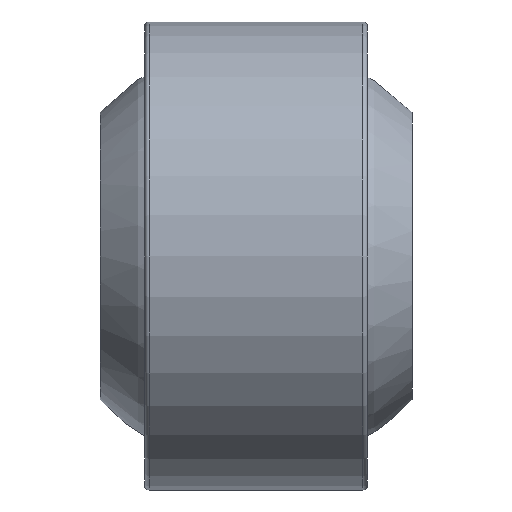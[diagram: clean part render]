
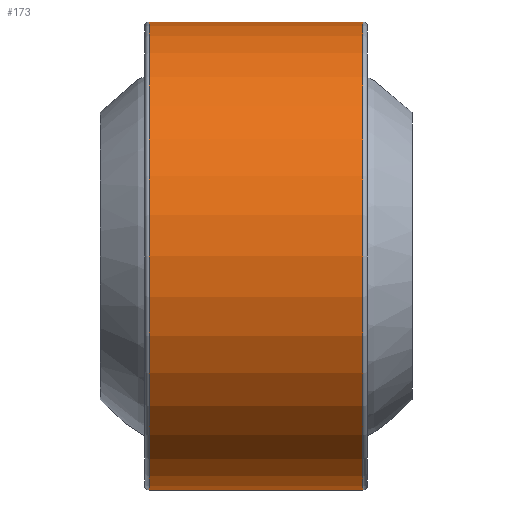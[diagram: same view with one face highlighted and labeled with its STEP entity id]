
A CAD part, front view. The second image highlights one B-rep face of the part: STEP entity #173.
In plain terms, the highlighted cylindrical face has radius 21 mm (diameter 42 mm), a full revolution.
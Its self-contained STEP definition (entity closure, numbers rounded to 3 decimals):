
#173 = ADVANCED_FACE( '', ( #195, #196, #197 ), #198, .T. );
#195 = FACE_OUTER_BOUND( '', #231, .T. );
#196 = FACE_BOUND( '', #232, .T. );
#197 = FACE_OUTER_BOUND( '', #233, .T. );
#198 = CYLINDRICAL_SURFACE( '', #234, 21. );
#231 = EDGE_LOOP( '', ( #274 ) );
#232 = EDGE_LOOP( '', ( #275 ) );
#233 = EDGE_LOOP( '', ( #276 ) );
#234 = AXIS2_PLACEMENT_3D( '', #277, #278, #279 );
#274 = ORIENTED_EDGE( '', *, *, #316, .T. );
#275 = ORIENTED_EDGE( '', *, *, #317, .T. );
#276 = ORIENTED_EDGE( '', *, *, #314, .F. );
#277 = CARTESIAN_POINT( '', ( 10., 0., 0. ) );
#278 = DIRECTION( '', ( -1., 0., 0. ) );
#279 = DIRECTION( '', ( 0., 0., -1. ) );
#314 = EDGE_CURVE( '', #330, #330, #331, .T. );
#316 = EDGE_CURVE( '', #334, #334, #335, .T. );
#317 = EDGE_CURVE( '', #336, #336, #337, .T. );
#330 = VERTEX_POINT( '', #354 );
#331 = CIRCLE( '', #355, 21. );
#334 = VERTEX_POINT( '', #358 );
#335 = CIRCLE( '', #359, 21. );
#336 = VERTEX_POINT( '', #360 );
#337 = B_SPLINE_CURVE_WITH_KNOTS( '', 3, ( #361, #362, #363, #364, #365, #366, #367, #368, #369, #370, #371, #372, #373, #374, #375, #376, #377, #378, #379, #380, #381, #382, #383, #384, #385, #386, #387, #388, #389, #390, #391, #392, #393, #394 ), .UNSPECIFIED., .T., .F., ( 2, 2, 2, 2, 2, 2, 2, 2, 2, 2, 2, 2, 2, 2, 2, 2, 2, 2, 2 ), ( 0., 0., 0., 0.001, 0.001, 0.002, 0.002, 0.003, 0.003, 0.004, 0.004, 0.005, 0.005, 0.006, 0.006, 0.007, 0.007, 0.008, 0.008 ), .UNSPECIFIED. );
#354 = CARTESIAN_POINT( '', ( 9.6, 0., -21. ) );
#355 = AXIS2_PLACEMENT_3D( '', #415, #416, #417 );
#358 = CARTESIAN_POINT( '', ( -9.6, 0., -21. ) );
#359 = AXIS2_PLACEMENT_3D( '', #421, #422, #423 );
#360 = CARTESIAN_POINT( '', ( 1.2, 21., 0. ) );
#361 = CARTESIAN_POINT( '', ( 1.2, 21., -0.159 ) );
#362 = CARTESIAN_POINT( '', ( 1.2, 21., 0.159 ) );
#363 = CARTESIAN_POINT( '', ( 1.169, 20.998, 0.314 ) );
#364 = CARTESIAN_POINT( '', ( 1.048, 20.992, 0.605 ) );
#365 = CARTESIAN_POINT( '', ( 0.959, 20.987, 0.738 ) );
#366 = CARTESIAN_POINT( '', ( 0.738, 20.978, 0.959 ) );
#367 = CARTESIAN_POINT( '', ( 0.604, 20.974, 1.049 ) );
#368 = CARTESIAN_POINT( '', ( 0.315, 20.968, 1.168 ) );
#369 = CARTESIAN_POINT( '', ( 0.157, 20.966, 1.2 ) );
#370 = CARTESIAN_POINT( '', ( -0.156, 20.966, 1.2 ) );
#371 = CARTESIAN_POINT( '', ( -0.313, 20.968, 1.169 ) );
#372 = CARTESIAN_POINT( '', ( -0.604, 20.974, 1.049 ) );
#373 = CARTESIAN_POINT( '', ( -0.736, 20.978, 0.961 ) );
#374 = CARTESIAN_POINT( '', ( -0.96, 20.987, 0.737 ) );
#375 = CARTESIAN_POINT( '', ( -1.048, 20.992, 0.605 ) );
#376 = CARTESIAN_POINT( '', ( -1.169, 20.998, 0.314 ) );
#377 = CARTESIAN_POINT( '', ( -1.2, 21., 0.157 ) );
#378 = CARTESIAN_POINT( '', ( -1.2, 21., -0.156 ) );
#379 = CARTESIAN_POINT( '', ( -1.169, 20.998, -0.314 ) );
#380 = CARTESIAN_POINT( '', ( -1.049, 20.992, -0.603 ) );
#381 = CARTESIAN_POINT( '', ( -0.96, 20.987, -0.737 ) );
#382 = CARTESIAN_POINT( '', ( -0.739, 20.978, -0.958 ) );
#383 = CARTESIAN_POINT( '', ( -0.606, 20.974, -1.048 ) );
#384 = CARTESIAN_POINT( '', ( -0.315, 20.968, -1.168 ) );
#385 = CARTESIAN_POINT( '', ( -0.16, 20.966, -1.2 ) );
#386 = CARTESIAN_POINT( '', ( 0.157, 20.966, -1.2 ) );
#387 = CARTESIAN_POINT( '', ( 0.313, 20.968, -1.169 ) );
#388 = CARTESIAN_POINT( '', ( 0.604, 20.974, -1.049 ) );
#389 = CARTESIAN_POINT( '', ( 0.737, 20.978, -0.96 ) );
#390 = CARTESIAN_POINT( '', ( 0.959, 20.987, -0.739 ) );
#391 = CARTESIAN_POINT( '', ( 1.048, 20.992, -0.605 ) );
#392 = CARTESIAN_POINT( '', ( 1.168, 20.998, -0.316 ) );
#393 = CARTESIAN_POINT( '', ( 1.2, 21., -0.159 ) );
#394 = CARTESIAN_POINT( '', ( 1.2, 21., 0.159 ) );
#415 = CARTESIAN_POINT( '', ( 9.6, 0., 0. ) );
#416 = DIRECTION( '', ( 1., 0., 0. ) );
#417 = DIRECTION( '', ( 0., 0., -1. ) );
#421 = CARTESIAN_POINT( '', ( -9.6, 0., 0. ) );
#422 = DIRECTION( '', ( 1., 0., 0. ) );
#423 = DIRECTION( '', ( 0., 0., -1. ) );
